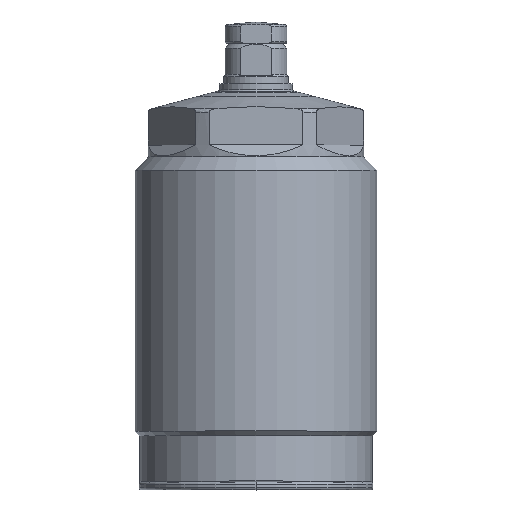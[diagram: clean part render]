
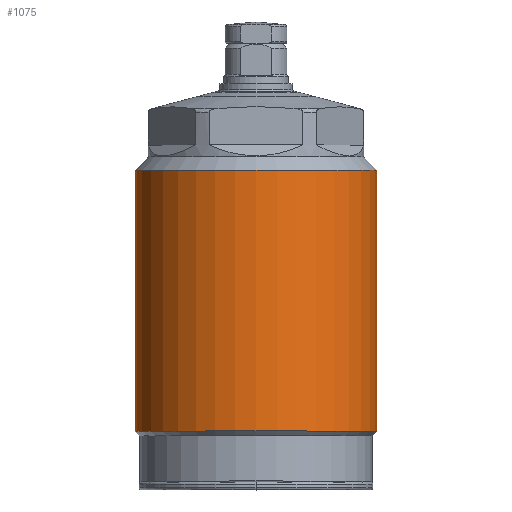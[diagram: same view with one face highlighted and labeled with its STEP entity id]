
A CAD part, top view. The second image highlights one B-rep face of the part: STEP entity #1075.
In plain terms, the highlighted cylindrical face has radius 22.5 mm (diameter 45 mm), a partial arc.
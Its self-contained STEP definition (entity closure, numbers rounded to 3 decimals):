
#1075=ADVANCED_FACE('',(#1266),#1164,.T.);
#1164=CYLINDRICAL_SURFACE('',#3417,22.5);
#1266=FACE_OUTER_BOUND('',#1426,.T.);
#1426=EDGE_LOOP('',(#2120,#2121,#2122,#2123));
#1560=LINE('',#5094,#1652);
#1561=LINE('',#5095,#1653);
#1652=VECTOR('',#4137,1.);
#1653=VECTOR('',#4138,1.);
#2120=ORIENTED_EDGE('',*,*,#2838,.T.);
#2121=ORIENTED_EDGE('',*,*,#2839,.F.);
#2122=ORIENTED_EDGE('',*,*,#2836,.F.);
#2123=ORIENTED_EDGE('',*,*,#2840,.T.);
#2544=VERTEX_POINT('',#5086);
#2545=VERTEX_POINT('',#5088);
#2546=VERTEX_POINT('',#5092);
#2547=VERTEX_POINT('',#5093);
#2836=EDGE_CURVE('',#2544,#2545,#3097,.T.);
#2838=EDGE_CURVE('',#2546,#2547,#3098,.T.);
#2839=EDGE_CURVE('',#2545,#2547,#1560,.T.);
#2840=EDGE_CURVE('',#2544,#2546,#1561,.T.);
#3097=CIRCLE('',#3414,22.5);
#3098=CIRCLE('',#3416,22.5);
#3414=AXIS2_PLACEMENT_3D('',#5087,#4130,#4131);
#3416=AXIS2_PLACEMENT_3D('',#5091,#4135,#4136);
#3417=AXIS2_PLACEMENT_3D('',#5096,#4139,#4140);
#4130=DIRECTION('',(0.,1.,0.));
#4131=DIRECTION('',(-1.,0.,0.));
#4135=DIRECTION('',(0.,1.,0.));
#4136=DIRECTION('',(-1.,0.,0.));
#4137=DIRECTION('',(0.,-1.,0.));
#4138=DIRECTION('',(0.,-1.,0.));
#4139=DIRECTION('',(0.,1.,0.));
#4140=DIRECTION('',(1.,0.,0.));
#5086=CARTESIAN_POINT('',(-22.5,58.1,0.));
#5087=CARTESIAN_POINT('',(0.,58.1,0.));
#5088=CARTESIAN_POINT('',(22.5,58.1,0.));
#5091=CARTESIAN_POINT('',(0.,9.6,0.));
#5092=CARTESIAN_POINT('',(-22.5,9.6,0.));
#5093=CARTESIAN_POINT('',(22.5,9.6,0.));
#5094=CARTESIAN_POINT('',(22.5,66.3,0.));
#5095=CARTESIAN_POINT('',(-22.5,66.3,0.));
#5096=CARTESIAN_POINT('',(0.,66.3,0.));
